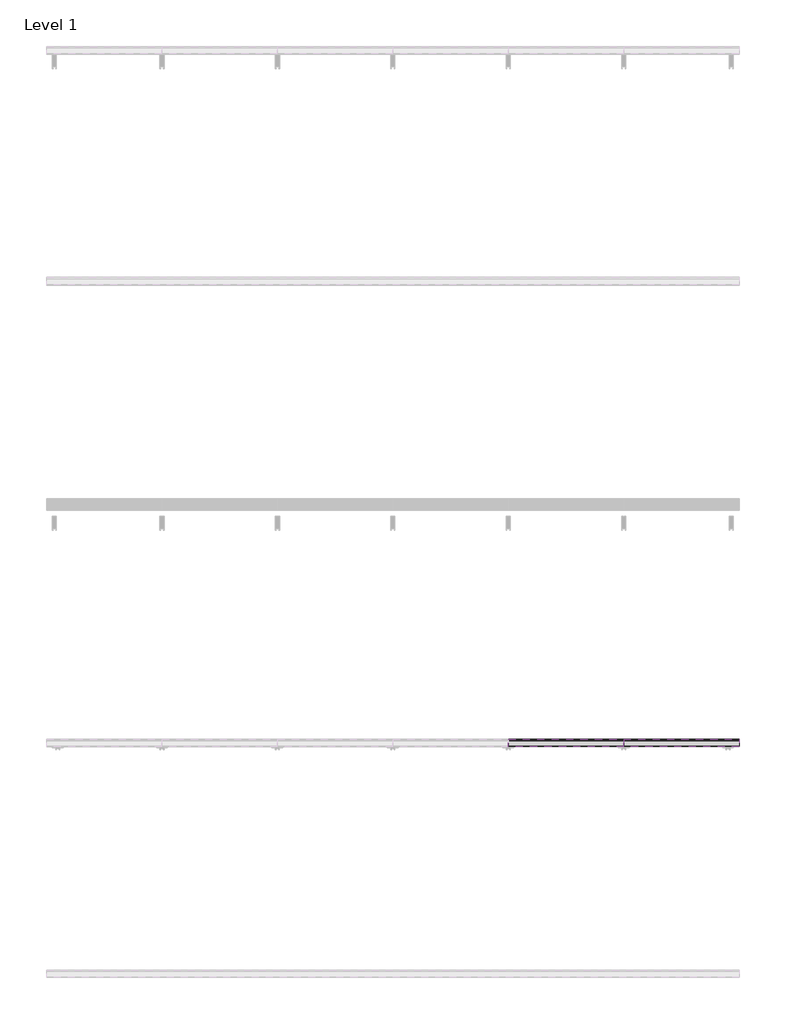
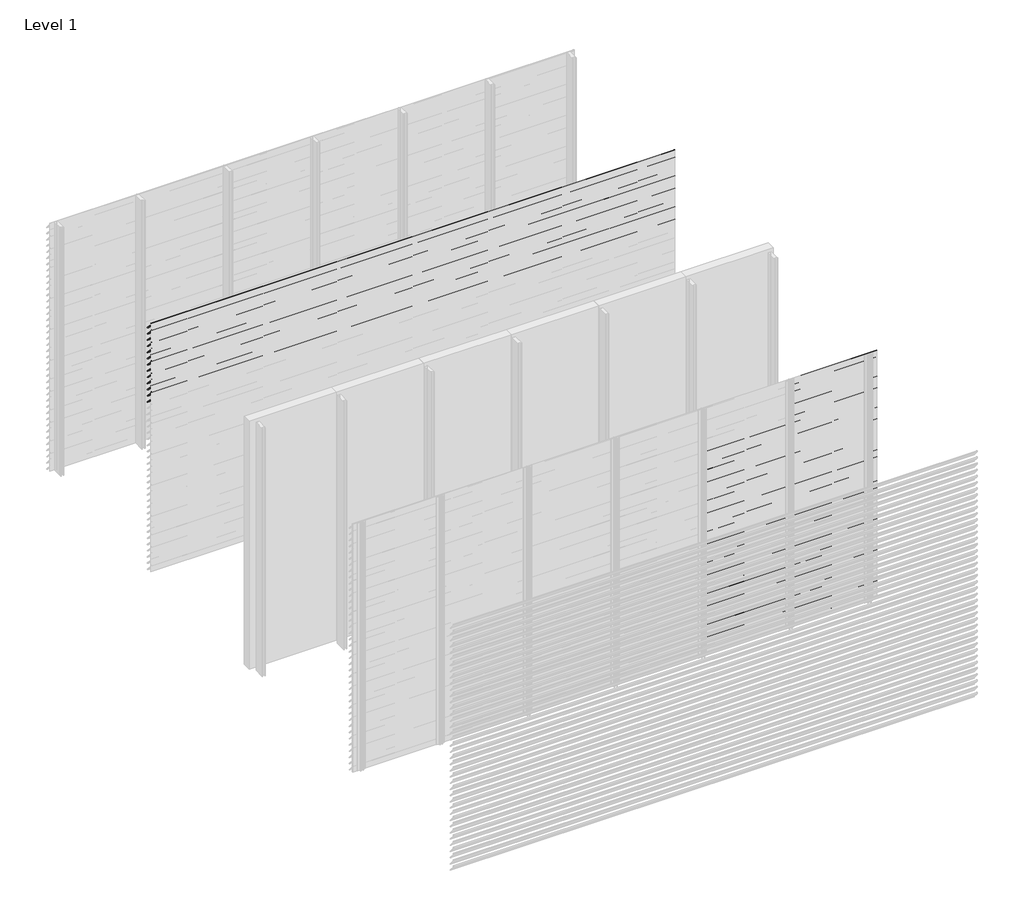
# One storey, part 6 of 35: 86 proxies.
"""IFC4 building model written with IfcOpenShell, lengths in millimetres."""

from ifc_helpers import new_model, si_unit, frame, origin, place, context, project, spatial, polyline, outline, extrude, element, save

model = new_model("IFC4")

# Units and contexts
model_context = context("Model", 3, world=origin())
ifc_project = project(units=[si_unit("LENGTHUNIT", "METRE", prefix="MILLI")], contexts=[model_context])

# Site, building, storey
site = spatial("IfcSite", under=ifc_project)
building = spatial("IfcBuilding", under=site)
storey = spatial("IfcBuildingStorey", under=building, Name="Level 1", Elevation=0.0)

# Proxies
placement = place(None, origin())
element("IfcBuildingElementProxy", 1, Name="Wall Sweeps", at=placement, inside=storey, context=model_context, shape_type="SweptSolid", body=[
    extrude(outline(polyline([(-49996.5, 3000.0), (-49996.5, 2985.5463701), (-49934.5, 2913.9330051), (-49934.5, 2910.4), (-49936.0, 2910.4), (-49936.0, 2913.3738975), (-49998.0, 2984.9872626), (-49998.0, 3000.0), (-49996.5, 3000.0)])), frame((0.0, 0.0, 0.0), z_axis=(1.0, 0.0, 0.0), x_axis=(0.0, 1.0, 0.0)), (0.0, 0.0, 1.0), 6000.0),
])
element("IfcBuildingElementProxy", 2, Name="Wall Sweeps", at=placement, inside=storey, context=model_context, shape_type="SweptSolid", body=[
    extrude(outline(polyline([(-49996.5, 2925.0), (-49996.5, 2910.5463701), (-49934.5, 2838.9330051), (-49934.5, 2835.4), (-49936.0, 2835.4), (-49936.0, 2838.3738975), (-49998.0, 2909.9872626), (-49998.0, 2925.0), (-49996.5, 2925.0)])), frame((0.0, 0.0, 0.0), z_axis=(1.0, 0.0, 0.0), x_axis=(0.0, 1.0, 0.0)), (0.0, 0.0, 1.0), 6000.0),
])
element("IfcBuildingElementProxy", 3, Name="Wall Sweeps", at=placement, inside=storey, context=model_context, shape_type="SweptSolid", body=[
    extrude(outline(polyline([(-49996.5, 2850.0), (-49996.5, 2835.5463701), (-49934.5, 2763.9330051), (-49934.5, 2760.4), (-49936.0, 2760.4), (-49936.0, 2763.3738975), (-49998.0, 2834.9872626), (-49998.0, 2850.0), (-49996.5, 2850.0)])), frame((0.0, 0.0, 0.0), z_axis=(1.0, 0.0, 0.0), x_axis=(0.0, 1.0, 0.0)), (0.0, 0.0, 1.0), 6000.0),
])
element("IfcBuildingElementProxy", 4, Name="Wall Sweeps", at=placement, inside=storey, context=model_context, shape_type="SweptSolid", body=[
    extrude(outline(polyline([(-49996.5, 2775.0), (-49996.5, 2760.5463701), (-49934.5, 2688.9330051), (-49934.5, 2685.4), (-49936.0, 2685.4), (-49936.0, 2688.3738975), (-49998.0, 2759.9872626), (-49998.0, 2775.0), (-49996.5, 2775.0)])), frame((0.0, 0.0, 0.0), z_axis=(1.0, 0.0, 0.0), x_axis=(0.0, 1.0, 0.0)), (0.0, 0.0, 1.0), 6000.0),
])
element("IfcBuildingElementProxy", 5, Name="Wall Sweeps", at=placement, inside=storey, context=model_context, shape_type="SweptSolid", body=[
    extrude(outline(polyline([(-49996.5, 2700.0), (-49996.5, 2685.5463701), (-49934.5, 2613.9330051), (-49934.5, 2610.4), (-49936.0, 2610.4), (-49936.0, 2613.3738975), (-49998.0, 2684.9872626), (-49998.0, 2700.0), (-49996.5, 2700.0)])), frame((0.0, 0.0, 0.0), z_axis=(1.0, 0.0, 0.0), x_axis=(0.0, 1.0, 0.0)), (0.0, 0.0, 1.0), 6000.0),
])
element("IfcBuildingElementProxy", 6, Name="Wall Sweeps", at=placement, inside=storey, context=model_context, shape_type="SweptSolid", body=[
    extrude(outline(polyline([(-49996.5, 2625.0), (-49996.5, 2610.5463701), (-49934.5, 2538.9330051), (-49934.5, 2535.4), (-49936.0, 2535.4), (-49936.0, 2538.3738975), (-49998.0, 2609.9872626), (-49998.0, 2625.0), (-49996.5, 2625.0)])), frame((0.0, 0.0, 0.0), z_axis=(1.0, 0.0, 0.0), x_axis=(0.0, 1.0, 0.0)), (0.0, 0.0, 1.0), 6000.0),
])
element("IfcBuildingElementProxy", 7, Name="Wall Sweeps", at=placement, inside=storey, context=model_context, shape_type="SweptSolid", body=[
    extrude(outline(polyline([(-49996.5, 2550.0), (-49996.5, 2535.5463701), (-49934.5, 2463.9330051), (-49934.5, 2460.4), (-49936.0, 2460.4), (-49936.0, 2463.3738975), (-49998.0, 2534.9872626), (-49998.0, 2550.0), (-49996.5, 2550.0)])), frame((0.0, 0.0, 0.0), z_axis=(1.0, 0.0, 0.0), x_axis=(0.0, 1.0, 0.0)), (0.0, 0.0, 1.0), 6000.0),
])
element("IfcBuildingElementProxy", 8, Name="Wall Sweeps", at=placement, inside=storey, context=model_context, shape_type="SweptSolid", body=[
    extrude(outline(polyline([(-49996.5, 2475.0), (-49996.5, 2460.5463701), (-49934.5, 2388.9330051), (-49934.5, 2385.4), (-49936.0, 2385.4), (-49936.0, 2388.3738975), (-49998.0, 2459.9872626), (-49998.0, 2475.0), (-49996.5, 2475.0)])), frame((0.0, 0.0, 0.0), z_axis=(1.0, 0.0, 0.0), x_axis=(0.0, 1.0, 0.0)), (0.0, 0.0, 1.0), 6000.0),
])
element("IfcBuildingElementProxy", 9, Name="Wall Sweeps", at=placement, inside=storey, context=model_context, shape_type="SweptSolid", body=[
    extrude(outline(polyline([(-49996.5, 2400.0), (-49996.5, 2385.5463701), (-49934.5, 2313.9330051), (-49934.5, 2310.4), (-49936.0, 2310.4), (-49936.0, 2313.3738975), (-49998.0, 2384.9872626), (-49998.0, 2400.0), (-49996.5, 2400.0)])), frame((0.0, 0.0, 0.0), z_axis=(1.0, 0.0, 0.0), x_axis=(0.0, 1.0, 0.0)), (0.0, 0.0, 1.0), 6000.0),
])
element("IfcBuildingElementProxy", 10, Name="Wall Sweeps", at=placement, inside=storey, context=model_context, shape_type="SweptSolid", body=[
    extrude(outline(polyline([(-49996.5, 2325.0), (-49996.5, 2310.5463701), (-49934.5, 2238.9330051), (-49934.5, 2235.4), (-49936.0, 2235.4), (-49936.0, 2238.3738975), (-49998.0, 2309.9872626), (-49998.0, 2325.0), (-49996.5, 2325.0)])), frame((0.0, 0.0, 0.0), z_axis=(1.0, 0.0, 0.0), x_axis=(0.0, 1.0, 0.0)), (0.0, 0.0, 1.0), 6000.0),
])
element("IfcBuildingElementProxy", 11, Name="Wall Sweeps", at=placement, inside=storey, context=model_context, shape_type="SweptSolid", body=[
    extrude(outline(polyline([(-49996.5, 2250.0), (-49996.5, 2235.5463701), (-49934.5, 2163.9330051), (-49934.5, 2160.4), (-49936.0, 2160.4), (-49936.0, 2163.3738975), (-49998.0, 2234.9872626), (-49998.0, 2250.0), (-49996.5, 2250.0)])), frame((0.0, 0.0, 0.0), z_axis=(1.0, 0.0, 0.0), x_axis=(0.0, 1.0, 0.0)), (0.0, 0.0, 1.0), 6000.0),
])
element("IfcBuildingElementProxy", 12, Name="Wall Sweeps", at=placement, inside=storey, context=model_context, shape_type="SweptSolid", body=[
    extrude(outline(polyline([(-49996.5, 2175.0), (-49996.5, 2160.5463701), (-49934.5, 2088.9330051), (-49934.5, 2085.4), (-49936.0, 2085.4), (-49936.0, 2088.3738975), (-49998.0, 2159.9872626), (-49998.0, 2175.0), (-49996.5, 2175.0)])), frame((0.0, 0.0, 0.0), z_axis=(1.0, 0.0, 0.0), x_axis=(0.0, 1.0, 0.0)), (0.0, 0.0, 1.0), 6000.0),
])
element("IfcBuildingElementProxy", 13, Name="Wall Sweeps", at=placement, inside=storey, context=model_context, shape_type="SweptSolid", body=[
    extrude(outline(polyline([(-49996.5, 2100.0), (-49996.5, 2085.5463701), (-49934.5, 2013.9330051), (-49934.5, 2010.4), (-49936.0, 2010.4), (-49936.0, 2013.3738975), (-49998.0, 2084.9872626), (-49998.0, 2100.0), (-49996.5, 2100.0)])), frame((0.0, 0.0, 0.0), z_axis=(1.0, 0.0, 0.0), x_axis=(0.0, 1.0, 0.0)), (0.0, 0.0, 1.0), 6000.0),
])
element("IfcBuildingElementProxy", 14, Name="Wall Sweeps", at=placement, inside=storey, context=model_context, shape_type="SweptSolid", body=[
    extrude(outline(polyline([(-53996.5, 2475.0), (-53996.5, 2460.5463701), (-53934.5, 2388.9330051), (-53934.5, 2385.4), (-53936.0, 2385.4), (-53936.0, 2388.3738975), (-53998.0, 2459.9872626), (-53998.0, 2475.0), (-53996.5, 2475.0)])), frame((4000.0, 0.0, 0.0), z_axis=(1.0, 0.0, 0.0), x_axis=(0.0, 1.0, 0.0)), (0.0, 0.0, 1.0), 1000.0),
])
element("IfcBuildingElementProxy", 15, Name="Wall Sweeps", at=placement, inside=storey, context=model_context, shape_type="SweptSolid", body=[
    extrude(outline(polyline([(-53996.5, 2400.0), (-53996.5, 2385.5463701), (-53934.5, 2313.9330051), (-53934.5, 2310.4), (-53936.0, 2310.4), (-53936.0, 2313.3738975), (-53998.0, 2384.9872626), (-53998.0, 2400.0), (-53996.5, 2400.0)])), frame((4000.0, 0.0, 0.0), z_axis=(1.0, 0.0, 0.0), x_axis=(0.0, 1.0, 0.0)), (0.0, 0.0, 1.0), 1000.0),
])
element("IfcBuildingElementProxy", 16, Name="Wall Sweeps", at=placement, inside=storey, context=model_context, shape_type="SweptSolid", body=[
    extrude(outline(polyline([(-53996.5, 2325.0), (-53996.5, 2310.5463701), (-53934.5, 2238.9330051), (-53934.5, 2235.4), (-53936.0, 2235.4), (-53936.0, 2238.3738975), (-53998.0, 2309.9872626), (-53998.0, 2325.0), (-53996.5, 2325.0)])), frame((4000.0, 0.0, 0.0), z_axis=(1.0, 0.0, 0.0), x_axis=(0.0, 1.0, 0.0)), (0.0, 0.0, 1.0), 1000.0),
])
element("IfcBuildingElementProxy", 17, Name="Wall Sweeps", at=placement, inside=storey, context=model_context, shape_type="SweptSolid", body=[
    extrude(outline(polyline([(-53996.5, 2250.0), (-53996.5, 2235.5463701), (-53934.5, 2163.9330051), (-53934.5, 2160.4), (-53936.0, 2160.4), (-53936.0, 2163.3738975), (-53998.0, 2234.9872626), (-53998.0, 2250.0), (-53996.5, 2250.0)])), frame((4000.0, 0.0, 0.0), z_axis=(1.0, 0.0, 0.0), x_axis=(0.0, 1.0, 0.0)), (0.0, 0.0, 1.0), 1000.0),
])
element("IfcBuildingElementProxy", 18, Name="Wall Sweeps", at=placement, inside=storey, context=model_context, shape_type="SweptSolid", body=[
    extrude(outline(polyline([(-53996.5, 2175.0), (-53996.5, 2160.5463701), (-53934.5, 2088.9330051), (-53934.5, 2085.4), (-53936.0, 2085.4), (-53936.0, 2088.3738975), (-53998.0, 2159.9872626), (-53998.0, 2175.0), (-53996.5, 2175.0)])), frame((4000.0, 0.0, 0.0), z_axis=(1.0, 0.0, 0.0), x_axis=(0.0, 1.0, 0.0)), (0.0, 0.0, 1.0), 1000.0),
])
element("IfcBuildingElementProxy", 19, Name="Wall Sweeps", at=placement, inside=storey, context=model_context, shape_type="SweptSolid", body=[
    extrude(outline(polyline([(-53996.5, 2100.0), (-53996.5, 2085.5463701), (-53934.5, 2013.9330051), (-53934.5, 2010.4), (-53936.0, 2010.4), (-53936.0, 2013.3738975), (-53998.0, 2084.9872626), (-53998.0, 2100.0), (-53996.5, 2100.0)])), frame((4000.0, 0.0, 0.0), z_axis=(1.0, 0.0, 0.0), x_axis=(0.0, 1.0, 0.0)), (0.0, 0.0, 1.0), 1000.0),
])
element("IfcBuildingElementProxy", 20, Name="Wall Sweeps", at=placement, inside=storey, context=model_context, shape_type="SweptSolid", body=[
    extrude(outline(polyline([(-53996.5, 2025.0), (-53996.5, 2010.5463701), (-53934.5, 1938.9330051), (-53934.5, 1935.4), (-53936.0, 1935.4), (-53936.0, 1938.3738975), (-53998.0, 2009.9872626), (-53998.0, 2025.0), (-53996.5, 2025.0)])), frame((4000.0, 0.0, 0.0), z_axis=(1.0, 0.0, 0.0), x_axis=(0.0, 1.0, 0.0)), (0.0, 0.0, 1.0), 1000.0),
])
element("IfcBuildingElementProxy", 21, Name="Wall Sweeps", at=placement, inside=storey, context=model_context, shape_type="SweptSolid", body=[
    extrude(outline(polyline([(-53996.5, 1950.0), (-53996.5, 1935.5463701), (-53934.5, 1863.9330051), (-53934.5, 1860.4), (-53936.0, 1860.4), (-53936.0, 1863.3738975), (-53998.0, 1934.9872626), (-53998.0, 1950.0), (-53996.5, 1950.0)])), frame((4000.0, 0.0, 0.0), z_axis=(1.0, 0.0, 0.0), x_axis=(0.0, 1.0, 0.0)), (0.0, 0.0, 1.0), 1000.0),
])
element("IfcBuildingElementProxy", 22, Name="Wall Sweeps", at=placement, inside=storey, context=model_context, shape_type="SweptSolid", body=[
    extrude(outline(polyline([(-53996.5, 1875.0), (-53996.5, 1860.5463701), (-53934.5, 1788.9330051), (-53934.5, 1785.4), (-53936.0, 1785.4), (-53936.0, 1788.3738975), (-53998.0, 1859.9872626), (-53998.0, 1875.0), (-53996.5, 1875.0)])), frame((4000.0, 0.0, 0.0), z_axis=(1.0, 0.0, 0.0), x_axis=(0.0, 1.0, 0.0)), (0.0, 0.0, 1.0), 1000.0),
])
element("IfcBuildingElementProxy", 23, Name="Wall Sweeps", at=placement, inside=storey, context=model_context, shape_type="SweptSolid", body=[
    extrude(outline(polyline([(-53996.5, 1800.0), (-53996.5, 1785.5463701), (-53934.5, 1713.9330051), (-53934.5, 1710.4), (-53936.0, 1710.4), (-53936.0, 1713.3738975), (-53998.0, 1784.9872626), (-53998.0, 1800.0), (-53996.5, 1800.0)])), frame((4000.0, 0.0, 0.0), z_axis=(1.0, 0.0, 0.0), x_axis=(0.0, 1.0, 0.0)), (0.0, 0.0, 1.0), 1000.0),
])
element("IfcBuildingElementProxy", 24, Name="Wall Sweeps", at=placement, inside=storey, context=model_context, shape_type="SweptSolid", body=[
    extrude(outline(polyline([(-53996.5, 1725.0), (-53996.5, 1710.5463701), (-53934.5, 1638.9330051), (-53934.5, 1635.4), (-53936.0, 1635.4), (-53936.0, 1638.3738975), (-53998.0, 1709.9872626), (-53998.0, 1725.0), (-53996.5, 1725.0)])), frame((4000.0, 0.0, 0.0), z_axis=(1.0, 0.0, 0.0), x_axis=(0.0, 1.0, 0.0)), (0.0, 0.0, 1.0), 1000.0),
])
element("IfcBuildingElementProxy", 25, Name="Wall Sweeps", at=placement, inside=storey, context=model_context, shape_type="SweptSolid", body=[
    extrude(outline(polyline([(-53996.5, 1650.0), (-53996.5, 1635.5463701), (-53934.5, 1563.9330051), (-53934.5, 1560.4), (-53936.0, 1560.4), (-53936.0, 1563.3738975), (-53998.0, 1634.9872626), (-53998.0, 1650.0), (-53996.5, 1650.0)])), frame((4000.0, 0.0, 0.0), z_axis=(1.0, 0.0, 0.0), x_axis=(0.0, 1.0, 0.0)), (0.0, 0.0, 1.0), 1000.0),
])
element("IfcBuildingElementProxy", 26, Name="Wall Sweeps", at=placement, inside=storey, context=model_context, shape_type="SweptSolid", body=[
    extrude(outline(polyline([(-53996.5, 1575.0), (-53996.5, 1560.5463701), (-53934.5, 1488.9330051), (-53934.5, 1485.4), (-53936.0, 1485.4), (-53936.0, 1488.3738975), (-53998.0, 1559.9872626), (-53998.0, 1575.0), (-53996.5, 1575.0)])), frame((4000.0, 0.0, 0.0), z_axis=(1.0, 0.0, 0.0), x_axis=(0.0, 1.0, 0.0)), (0.0, 0.0, 1.0), 1000.0),
])
element("IfcBuildingElementProxy", 27, Name="Wall Sweeps", at=placement, inside=storey, context=model_context, shape_type="SweptSolid", body=[
    extrude(outline(polyline([(-53996.5, 1500.0), (-53996.5, 1485.5463701), (-53934.5, 1413.9330051), (-53934.5, 1410.4), (-53936.0, 1410.4), (-53936.0, 1413.3738975), (-53998.0, 1484.9872626), (-53998.0, 1500.0), (-53996.5, 1500.0)])), frame((4000.0, 0.0, 0.0), z_axis=(1.0, 0.0, 0.0), x_axis=(0.0, 1.0, 0.0)), (0.0, 0.0, 1.0), 1000.0),
])
element("IfcBuildingElementProxy", 28, Name="Wall Sweeps", at=placement, inside=storey, context=model_context, shape_type="SweptSolid", body=[
    extrude(outline(polyline([(-53996.5, 1425.0), (-53996.5, 1410.5463701), (-53934.5, 1338.9330051), (-53934.5, 1335.4), (-53936.0, 1335.4), (-53936.0, 1338.3738975), (-53998.0, 1409.9872626), (-53998.0, 1425.0), (-53996.5, 1425.0)])), frame((4000.0, 0.0, 0.0), z_axis=(1.0, 0.0, 0.0), x_axis=(0.0, 1.0, 0.0)), (0.0, 0.0, 1.0), 1000.0),
])
element("IfcBuildingElementProxy", 29, Name="Wall Sweeps", at=placement, inside=storey, context=model_context, shape_type="SweptSolid", body=[
    extrude(outline(polyline([(-53996.5, 1350.0), (-53996.5, 1335.5463701), (-53934.5, 1263.9330051), (-53934.5, 1260.4), (-53936.0, 1260.4), (-53936.0, 1263.3738975), (-53998.0, 1334.9872626), (-53998.0, 1350.0), (-53996.5, 1350.0)])), frame((4000.0, 0.0, 0.0), z_axis=(1.0, 0.0, 0.0), x_axis=(0.0, 1.0, 0.0)), (0.0, 0.0, 1.0), 1000.0),
])
element("IfcBuildingElementProxy", 30, Name="Wall Sweeps", at=placement, inside=storey, context=model_context, shape_type="SweptSolid", body=[
    extrude(outline(polyline([(-53996.5, 1275.0), (-53996.5, 1260.5463701), (-53934.5, 1188.9330051), (-53934.5, 1185.4), (-53936.0, 1185.4), (-53936.0, 1188.3738975), (-53998.0, 1259.9872626), (-53998.0, 1275.0), (-53996.5, 1275.0)])), frame((4000.0, 0.0, 0.0), z_axis=(1.0, 0.0, 0.0), x_axis=(0.0, 1.0, 0.0)), (0.0, 0.0, 1.0), 1000.0),
])
element("IfcBuildingElementProxy", 31, Name="Wall Sweeps", at=placement, inside=storey, context=model_context, shape_type="SweptSolid", body=[
    extrude(outline(polyline([(-53996.5, 1200.0), (-53996.5, 1185.5463701), (-53934.5, 1113.9330051), (-53934.5, 1110.4), (-53936.0, 1110.4), (-53936.0, 1113.3738975), (-53998.0, 1184.9872626), (-53998.0, 1200.0), (-53996.5, 1200.0)])), frame((4000.0, 0.0, 0.0), z_axis=(1.0, 0.0, 0.0), x_axis=(0.0, 1.0, 0.0)), (0.0, 0.0, 1.0), 1000.0),
])
element("IfcBuildingElementProxy", 32, Name="Wall Sweeps", at=placement, inside=storey, context=model_context, shape_type="SweptSolid", body=[
    extrude(outline(polyline([(-53996.5, 1125.0), (-53996.5, 1110.5463701), (-53934.5, 1038.9330051), (-53934.5, 1035.4), (-53936.0, 1035.4), (-53936.0, 1038.3738975), (-53998.0, 1109.9872626), (-53998.0, 1125.0), (-53996.5, 1125.0)])), frame((4000.0, 0.0, 0.0), z_axis=(1.0, 0.0, 0.0), x_axis=(0.0, 1.0, 0.0)), (0.0, 0.0, 1.0), 1000.0),
])
element("IfcBuildingElementProxy", 33, Name="Wall Sweeps", at=placement, inside=storey, context=model_context, shape_type="SweptSolid", body=[
    extrude(outline(polyline([(-53996.5, 1050.0), (-53996.5, 1035.5463701), (-53934.5, 963.9330051), (-53934.5, 960.4), (-53936.0, 960.4), (-53936.0, 963.3738975), (-53998.0, 1034.9872626), (-53998.0, 1050.0), (-53996.5, 1050.0)])), frame((4000.0, 0.0, 0.0), z_axis=(1.0, 0.0, 0.0), x_axis=(0.0, 1.0, 0.0)), (0.0, 0.0, 1.0), 1000.0),
])
element("IfcBuildingElementProxy", 34, Name="Wall Sweeps", at=placement, inside=storey, context=model_context, shape_type="SweptSolid", body=[
    extrude(outline(polyline([(-53996.5, 975.0), (-53996.5, 960.5463701), (-53934.5, 888.9330051), (-53934.5, 885.4), (-53936.0, 885.4), (-53936.0, 888.3738975), (-53998.0, 959.9872626), (-53998.0, 975.0), (-53996.5, 975.0)])), frame((4000.0, 0.0, 0.0), z_axis=(1.0, 0.0, 0.0), x_axis=(0.0, 1.0, 0.0)), (0.0, 0.0, 1.0), 1000.0),
])
element("IfcBuildingElementProxy", 35, Name="Wall Sweeps", at=placement, inside=storey, context=model_context, shape_type="SweptSolid", body=[
    extrude(outline(polyline([(-53996.5, 900.0), (-53996.5, 885.5463701), (-53934.5, 813.9330051), (-53934.5, 810.4), (-53936.0, 810.4), (-53936.0, 813.3738975), (-53998.0, 884.9872626), (-53998.0, 900.0), (-53996.5, 900.0)])), frame((4000.0, 0.0, 0.0), z_axis=(1.0, 0.0, 0.0), x_axis=(0.0, 1.0, 0.0)), (0.0, 0.0, 1.0), 1000.0),
])
element("IfcBuildingElementProxy", 36, Name="Wall Sweeps", at=placement, inside=storey, context=model_context, shape_type="SweptSolid", body=[
    extrude(outline(polyline([(-53996.5, 825.0), (-53996.5, 810.5463701), (-53934.5, 738.9330051), (-53934.5, 735.4), (-53936.0, 735.4), (-53936.0, 738.3738975), (-53998.0, 809.9872626), (-53998.0, 825.0), (-53996.5, 825.0)])), frame((4000.0, 0.0, 0.0), z_axis=(1.0, 0.0, 0.0), x_axis=(0.0, 1.0, 0.0)), (0.0, 0.0, 1.0), 1000.0),
])
element("IfcBuildingElementProxy", 37, Name="Wall Sweeps", at=placement, inside=storey, context=model_context, shape_type="SweptSolid", body=[
    extrude(outline(polyline([(-53996.5, 750.0), (-53996.5, 735.5463701), (-53934.5, 663.9330051), (-53934.5, 660.4), (-53936.0, 660.4), (-53936.0, 663.3738975), (-53998.0, 734.9872626), (-53998.0, 750.0), (-53996.5, 750.0)])), frame((4000.0, 0.0, 0.0), z_axis=(1.0, 0.0, 0.0), x_axis=(0.0, 1.0, 0.0)), (0.0, 0.0, 1.0), 1000.0),
])
element("IfcBuildingElementProxy", 38, Name="Wall Sweeps", at=placement, inside=storey, context=model_context, shape_type="SweptSolid", body=[
    extrude(outline(polyline([(-53996.5, 675.0), (-53996.5, 660.5463701), (-53934.5, 588.9330051), (-53934.5, 585.4), (-53936.0, 585.4), (-53936.0, 588.3738975), (-53998.0, 659.9872626), (-53998.0, 675.0), (-53996.5, 675.0)])), frame((4000.0, 0.0, 0.0), z_axis=(1.0, 0.0, 0.0), x_axis=(0.0, 1.0, 0.0)), (0.0, 0.0, 1.0), 1000.0),
])
element("IfcBuildingElementProxy", 39, Name="Wall Sweeps", at=placement, inside=storey, context=model_context, shape_type="SweptSolid", body=[
    extrude(outline(polyline([(-53996.5, 600.0), (-53996.5, 585.5463701), (-53934.5, 513.9330051), (-53934.5, 510.4), (-53936.0, 510.4), (-53936.0, 513.3738975), (-53998.0, 584.9872626), (-53998.0, 600.0), (-53996.5, 600.0)])), frame((4000.0, 0.0, 0.0), z_axis=(1.0, 0.0, 0.0), x_axis=(0.0, 1.0, 0.0)), (0.0, 0.0, 1.0), 1000.0),
])
element("IfcBuildingElementProxy", 40, Name="Wall Sweeps", at=placement, inside=storey, context=model_context, shape_type="SweptSolid", body=[
    extrude(outline(polyline([(-53996.5, 525.0), (-53996.5, 510.5463701), (-53934.5, 438.9330051), (-53934.5, 435.4), (-53936.0, 435.4), (-53936.0, 438.3738975), (-53998.0, 509.9872626), (-53998.0, 525.0), (-53996.5, 525.0)])), frame((4000.0, 0.0, 0.0), z_axis=(1.0, 0.0, 0.0), x_axis=(0.0, 1.0, 0.0)), (0.0, 0.0, 1.0), 1000.0),
])
element("IfcBuildingElementProxy", 41, Name="Wall Sweeps", at=placement, inside=storey, context=model_context, shape_type="SweptSolid", body=[
    extrude(outline(polyline([(-53996.5, 450.0), (-53996.5, 435.5463701), (-53934.5, 363.9330051), (-53934.5, 360.4), (-53936.0, 360.4), (-53936.0, 363.3738975), (-53998.0, 434.9872626), (-53998.0, 450.0), (-53996.5, 450.0)])), frame((4000.0, 0.0, 0.0), z_axis=(1.0, 0.0, 0.0), x_axis=(0.0, 1.0, 0.0)), (0.0, 0.0, 1.0), 1000.0),
])
element("IfcBuildingElementProxy", 42, Name="Wall Sweeps", at=placement, inside=storey, context=model_context, shape_type="SweptSolid", body=[
    extrude(outline(polyline([(-53996.5, 375.0), (-53996.5, 360.5463701), (-53934.5, 288.9330051), (-53934.5, 285.4), (-53936.0, 285.4), (-53936.0, 288.3738975), (-53998.0, 359.9872626), (-53998.0, 375.0), (-53996.5, 375.0)])), frame((4000.0, 0.0, 0.0), z_axis=(1.0, 0.0, 0.0), x_axis=(0.0, 1.0, 0.0)), (0.0, 0.0, 1.0), 1000.0),
])
element("IfcBuildingElementProxy", 43, Name="Wall Sweeps", at=placement, inside=storey, context=model_context, shape_type="SweptSolid", body=[
    extrude(outline(polyline([(-53996.5, 300.0), (-53996.5, 285.5463701), (-53934.5, 213.9330051), (-53934.5, 210.4), (-53936.0, 210.4), (-53936.0, 213.3738975), (-53998.0, 284.9872626), (-53998.0, 300.0), (-53996.5, 300.0)])), frame((4000.0, 0.0, 0.0), z_axis=(1.0, 0.0, 0.0), x_axis=(0.0, 1.0, 0.0)), (0.0, 0.0, 1.0), 1000.0),
])
element("IfcBuildingElementProxy", 44, Name="Wall Sweeps", at=placement, inside=storey, context=model_context, shape_type="SweptSolid", body=[
    extrude(outline(polyline([(-53996.5, 225.0), (-53996.5, 210.5463701), (-53934.5, 138.9330051), (-53934.5, 135.4), (-53936.0, 135.4), (-53936.0, 138.3738975), (-53998.0, 209.9872626), (-53998.0, 225.0), (-53996.5, 225.0)])), frame((4000.0, 0.0, 0.0), z_axis=(1.0, 0.0, 0.0), x_axis=(0.0, 1.0, 0.0)), (0.0, 0.0, 1.0), 1000.0),
])
element("IfcBuildingElementProxy", 45, Name="Wall Sweeps", at=placement, inside=storey, context=model_context, shape_type="SweptSolid", body=[
    extrude(outline(polyline([(-53996.5, 150.0), (-53996.5, 135.5463701), (-53934.5, 63.9330051), (-53934.5, 60.4), (-53936.0, 60.4), (-53936.0, 63.3738975), (-53998.0, 134.9872626), (-53998.0, 150.0), (-53996.5, 150.0)])), frame((4000.0, 0.0, 0.0), z_axis=(1.0, 0.0, 0.0), x_axis=(0.0, 1.0, 0.0)), (0.0, 0.0, 1.0), 1000.0),
])
element("IfcBuildingElementProxy", 46, Name="Wall Sweeps", at=placement, inside=storey, context=model_context, shape_type="SweptSolid", body=[
    extrude(outline(polyline([(-53996.5, 75.0), (-53996.5, 60.5463701), (-53934.5, -11.0669949), (-53934.5, -14.6), (-53936.0, -14.6), (-53936.0, -11.6261025), (-53998.0, 59.9872626), (-53998.0, 75.0), (-53996.5, 75.0)])), frame((4000.0, 0.0, 0.0), z_axis=(1.0, 0.0, 0.0), x_axis=(0.0, 1.0, 0.0)), (0.0, 0.0, 1.0), 1000.0),
])
element("IfcBuildingElementProxy", 47, Name="Wall Sweeps", at=placement, inside=storey, context=model_context, shape_type="SweptSolid", body=[
    extrude(outline(polyline([(-53996.5, 3000.0), (-53996.5, 2985.5463701), (-53934.5, 2913.9330051), (-53934.5, 2910.4), (-53936.0, 2910.4), (-53936.0, 2913.3738975), (-53998.0, 2984.9872626), (-53998.0, 3000.0), (-53996.5, 3000.0)])), frame((5000.0, 0.0, 0.0), z_axis=(1.0, 0.0, 0.0), x_axis=(0.0, 1.0, 0.0)), (0.0, 0.0, 1.0), 1000.0),
])
element("IfcBuildingElementProxy", 48, Name="Wall Sweeps", at=placement, inside=storey, context=model_context, shape_type="SweptSolid", body=[
    extrude(outline(polyline([(-53996.5, 2925.0), (-53996.5, 2910.5463701), (-53934.5, 2838.9330051), (-53934.5, 2835.4), (-53936.0, 2835.4), (-53936.0, 2838.3738975), (-53998.0, 2909.9872626), (-53998.0, 2925.0), (-53996.5, 2925.0)])), frame((5000.0, 0.0, 0.0), z_axis=(1.0, 0.0, 0.0), x_axis=(0.0, 1.0, 0.0)), (0.0, 0.0, 1.0), 1000.0),
])
element("IfcBuildingElementProxy", 49, Name="Wall Sweeps", at=placement, inside=storey, context=model_context, shape_type="SweptSolid", body=[
    extrude(outline(polyline([(-53996.5, 2850.0), (-53996.5, 2835.5463701), (-53934.5, 2763.9330051), (-53934.5, 2760.4), (-53936.0, 2760.4), (-53936.0, 2763.3738975), (-53998.0, 2834.9872626), (-53998.0, 2850.0), (-53996.5, 2850.0)])), frame((5000.0, 0.0, 0.0), z_axis=(1.0, 0.0, 0.0), x_axis=(0.0, 1.0, 0.0)), (0.0, 0.0, 1.0), 1000.0),
])
element("IfcBuildingElementProxy", 50, Name="Wall Sweeps", at=placement, inside=storey, context=model_context, shape_type="SweptSolid", body=[
    extrude(outline(polyline([(-53996.5, 2775.0), (-53996.5, 2760.5463701), (-53934.5, 2688.9330051), (-53934.5, 2685.4), (-53936.0, 2685.4), (-53936.0, 2688.3738975), (-53998.0, 2759.9872626), (-53998.0, 2775.0), (-53996.5, 2775.0)])), frame((5000.0, 0.0, 0.0), z_axis=(1.0, 0.0, 0.0), x_axis=(0.0, 1.0, 0.0)), (0.0, 0.0, 1.0), 1000.0),
])
element("IfcBuildingElementProxy", 51, Name="Wall Sweeps", at=placement, inside=storey, context=model_context, shape_type="SweptSolid", body=[
    extrude(outline(polyline([(-53996.5, 2700.0), (-53996.5, 2685.5463701), (-53934.5, 2613.9330051), (-53934.5, 2610.4), (-53936.0, 2610.4), (-53936.0, 2613.3738975), (-53998.0, 2684.9872626), (-53998.0, 2700.0), (-53996.5, 2700.0)])), frame((5000.0, 0.0, 0.0), z_axis=(1.0, 0.0, 0.0), x_axis=(0.0, 1.0, 0.0)), (0.0, 0.0, 1.0), 1000.0),
])
element("IfcBuildingElementProxy", 52, Name="Wall Sweeps", at=placement, inside=storey, context=model_context, shape_type="SweptSolid", body=[
    extrude(outline(polyline([(-53996.5, 2625.0), (-53996.5, 2610.5463701), (-53934.5, 2538.9330051), (-53934.5, 2535.4), (-53936.0, 2535.4), (-53936.0, 2538.3738975), (-53998.0, 2609.9872626), (-53998.0, 2625.0), (-53996.5, 2625.0)])), frame((5000.0, 0.0, 0.0), z_axis=(1.0, 0.0, 0.0), x_axis=(0.0, 1.0, 0.0)), (0.0, 0.0, 1.0), 1000.0),
])
element("IfcBuildingElementProxy", 53, Name="Wall Sweeps", at=placement, inside=storey, context=model_context, shape_type="SweptSolid", body=[
    extrude(outline(polyline([(-53996.5, 2550.0), (-53996.5, 2535.5463701), (-53934.5, 2463.9330051), (-53934.5, 2460.4), (-53936.0, 2460.4), (-53936.0, 2463.3738975), (-53998.0, 2534.9872626), (-53998.0, 2550.0), (-53996.5, 2550.0)])), frame((5000.0, 0.0, 0.0), z_axis=(1.0, 0.0, 0.0), x_axis=(0.0, 1.0, 0.0)), (0.0, 0.0, 1.0), 1000.0),
])
element("IfcBuildingElementProxy", 54, Name="Wall Sweeps", at=placement, inside=storey, context=model_context, shape_type="SweptSolid", body=[
    extrude(outline(polyline([(-53996.5, 2475.0), (-53996.5, 2460.5463701), (-53934.5, 2388.9330051), (-53934.5, 2385.4), (-53936.0, 2385.4), (-53936.0, 2388.3738975), (-53998.0, 2459.9872626), (-53998.0, 2475.0), (-53996.5, 2475.0)])), frame((5000.0, 0.0, 0.0), z_axis=(1.0, 0.0, 0.0), x_axis=(0.0, 1.0, 0.0)), (0.0, 0.0, 1.0), 1000.0),
])
element("IfcBuildingElementProxy", 55, Name="Wall Sweeps", at=placement, inside=storey, context=model_context, shape_type="SweptSolid", body=[
    extrude(outline(polyline([(-53996.5, 2400.0), (-53996.5, 2385.5463701), (-53934.5, 2313.9330051), (-53934.5, 2310.4), (-53936.0, 2310.4), (-53936.0, 2313.3738975), (-53998.0, 2384.9872626), (-53998.0, 2400.0), (-53996.5, 2400.0)])), frame((5000.0, 0.0, 0.0), z_axis=(1.0, 0.0, 0.0), x_axis=(0.0, 1.0, 0.0)), (0.0, 0.0, 1.0), 1000.0),
])
element("IfcBuildingElementProxy", 56, Name="Wall Sweeps", at=placement, inside=storey, context=model_context, shape_type="SweptSolid", body=[
    extrude(outline(polyline([(-53996.5, 2325.0), (-53996.5, 2310.5463701), (-53934.5, 2238.9330051), (-53934.5, 2235.4), (-53936.0, 2235.4), (-53936.0, 2238.3738975), (-53998.0, 2309.9872626), (-53998.0, 2325.0), (-53996.5, 2325.0)])), frame((5000.0, 0.0, 0.0), z_axis=(1.0, 0.0, 0.0), x_axis=(0.0, 1.0, 0.0)), (0.0, 0.0, 1.0), 1000.0),
])
element("IfcBuildingElementProxy", 57, Name="Wall Sweeps", at=placement, inside=storey, context=model_context, shape_type="SweptSolid", body=[
    extrude(outline(polyline([(-53996.5, 2250.0), (-53996.5, 2235.5463701), (-53934.5, 2163.9330051), (-53934.5, 2160.4), (-53936.0, 2160.4), (-53936.0, 2163.3738975), (-53998.0, 2234.9872626), (-53998.0, 2250.0), (-53996.5, 2250.0)])), frame((5000.0, 0.0, 0.0), z_axis=(1.0, 0.0, 0.0), x_axis=(0.0, 1.0, 0.0)), (0.0, 0.0, 1.0), 1000.0),
])
element("IfcBuildingElementProxy", 58, Name="Wall Sweeps", at=placement, inside=storey, context=model_context, shape_type="SweptSolid", body=[
    extrude(outline(polyline([(-53996.5, 2175.0), (-53996.5, 2160.5463701), (-53934.5, 2088.9330051), (-53934.5, 2085.4), (-53936.0, 2085.4), (-53936.0, 2088.3738975), (-53998.0, 2159.9872626), (-53998.0, 2175.0), (-53996.5, 2175.0)])), frame((5000.0, 0.0, 0.0), z_axis=(1.0, 0.0, 0.0), x_axis=(0.0, 1.0, 0.0)), (0.0, 0.0, 1.0), 1000.0),
])
element("IfcBuildingElementProxy", 59, Name="Wall Sweeps", at=placement, inside=storey, context=model_context, shape_type="SweptSolid", body=[
    extrude(outline(polyline([(-53996.5, 2100.0), (-53996.5, 2085.5463701), (-53934.5, 2013.9330051), (-53934.5, 2010.4), (-53936.0, 2010.4), (-53936.0, 2013.3738975), (-53998.0, 2084.9872626), (-53998.0, 2100.0), (-53996.5, 2100.0)])), frame((5000.0, 0.0, 0.0), z_axis=(1.0, 0.0, 0.0), x_axis=(0.0, 1.0, 0.0)), (0.0, 0.0, 1.0), 1000.0),
])
element("IfcBuildingElementProxy", 60, Name="Wall Sweeps", at=placement, inside=storey, context=model_context, shape_type="SweptSolid", body=[
    extrude(outline(polyline([(-53996.5, 2025.0), (-53996.5, 2010.5463701), (-53934.5, 1938.9330051), (-53934.5, 1935.4), (-53936.0, 1935.4), (-53936.0, 1938.3738975), (-53998.0, 2009.9872626), (-53998.0, 2025.0), (-53996.5, 2025.0)])), frame((5000.0, 0.0, 0.0), z_axis=(1.0, 0.0, 0.0), x_axis=(0.0, 1.0, 0.0)), (0.0, 0.0, 1.0), 1000.0),
])
element("IfcBuildingElementProxy", 61, Name="Wall Sweeps", at=placement, inside=storey, context=model_context, shape_type="SweptSolid", body=[
    extrude(outline(polyline([(-53996.5, 1950.0), (-53996.5, 1935.5463701), (-53934.5, 1863.9330051), (-53934.5, 1860.4), (-53936.0, 1860.4), (-53936.0, 1863.3738975), (-53998.0, 1934.9872626), (-53998.0, 1950.0), (-53996.5, 1950.0)])), frame((5000.0, 0.0, 0.0), z_axis=(1.0, 0.0, 0.0), x_axis=(0.0, 1.0, 0.0)), (0.0, 0.0, 1.0), 1000.0),
])
element("IfcBuildingElementProxy", 62, Name="Wall Sweeps", at=placement, inside=storey, context=model_context, shape_type="SweptSolid", body=[
    extrude(outline(polyline([(-53996.5, 1875.0), (-53996.5, 1860.5463701), (-53934.5, 1788.9330051), (-53934.5, 1785.4), (-53936.0, 1785.4), (-53936.0, 1788.3738975), (-53998.0, 1859.9872626), (-53998.0, 1875.0), (-53996.5, 1875.0)])), frame((5000.0, 0.0, 0.0), z_axis=(1.0, 0.0, 0.0), x_axis=(0.0, 1.0, 0.0)), (0.0, 0.0, 1.0), 1000.0),
])
element("IfcBuildingElementProxy", 63, Name="Wall Sweeps", at=placement, inside=storey, context=model_context, shape_type="SweptSolid", body=[
    extrude(outline(polyline([(-53996.5, 1800.0), (-53996.5, 1785.5463701), (-53934.5, 1713.9330051), (-53934.5, 1710.4), (-53936.0, 1710.4), (-53936.0, 1713.3738975), (-53998.0, 1784.9872626), (-53998.0, 1800.0), (-53996.5, 1800.0)])), frame((5000.0, 0.0, 0.0), z_axis=(1.0, 0.0, 0.0), x_axis=(0.0, 1.0, 0.0)), (0.0, 0.0, 1.0), 1000.0),
])
element("IfcBuildingElementProxy", 64, Name="Wall Sweeps", at=placement, inside=storey, context=model_context, shape_type="SweptSolid", body=[
    extrude(outline(polyline([(-53996.5, 1725.0), (-53996.5, 1710.5463701), (-53934.5, 1638.9330051), (-53934.5, 1635.4), (-53936.0, 1635.4), (-53936.0, 1638.3738975), (-53998.0, 1709.9872626), (-53998.0, 1725.0), (-53996.5, 1725.0)])), frame((5000.0, 0.0, 0.0), z_axis=(1.0, 0.0, 0.0), x_axis=(0.0, 1.0, 0.0)), (0.0, 0.0, 1.0), 1000.0),
])
element("IfcBuildingElementProxy", 65, Name="Wall Sweeps", at=placement, inside=storey, context=model_context, shape_type="SweptSolid", body=[
    extrude(outline(polyline([(-53996.5, 1650.0), (-53996.5, 1635.5463701), (-53934.5, 1563.9330051), (-53934.5, 1560.4), (-53936.0, 1560.4), (-53936.0, 1563.3738975), (-53998.0, 1634.9872626), (-53998.0, 1650.0), (-53996.5, 1650.0)])), frame((5000.0, 0.0, 0.0), z_axis=(1.0, 0.0, 0.0), x_axis=(0.0, 1.0, 0.0)), (0.0, 0.0, 1.0), 1000.0),
])
element("IfcBuildingElementProxy", 66, Name="Wall Sweeps", at=placement, inside=storey, context=model_context, shape_type="SweptSolid", body=[
    extrude(outline(polyline([(-53996.5, 1575.0), (-53996.5, 1560.5463701), (-53934.5, 1488.9330051), (-53934.5, 1485.4), (-53936.0, 1485.4), (-53936.0, 1488.3738975), (-53998.0, 1559.9872626), (-53998.0, 1575.0), (-53996.5, 1575.0)])), frame((5000.0, 0.0, 0.0), z_axis=(1.0, 0.0, 0.0), x_axis=(0.0, 1.0, 0.0)), (0.0, 0.0, 1.0), 1000.0),
])
element("IfcBuildingElementProxy", 67, Name="Wall Sweeps", at=placement, inside=storey, context=model_context, shape_type="SweptSolid", body=[
    extrude(outline(polyline([(-53996.5, 1500.0), (-53996.5, 1485.5463701), (-53934.5, 1413.9330051), (-53934.5, 1410.4), (-53936.0, 1410.4), (-53936.0, 1413.3738975), (-53998.0, 1484.9872626), (-53998.0, 1500.0), (-53996.5, 1500.0)])), frame((5000.0, 0.0, 0.0), z_axis=(1.0, 0.0, 0.0), x_axis=(0.0, 1.0, 0.0)), (0.0, 0.0, 1.0), 1000.0),
])
element("IfcBuildingElementProxy", 68, Name="Wall Sweeps", at=placement, inside=storey, context=model_context, shape_type="SweptSolid", body=[
    extrude(outline(polyline([(-53996.5, 1425.0), (-53996.5, 1410.5463701), (-53934.5, 1338.9330051), (-53934.5, 1335.4), (-53936.0, 1335.4), (-53936.0, 1338.3738975), (-53998.0, 1409.9872626), (-53998.0, 1425.0), (-53996.5, 1425.0)])), frame((5000.0, 0.0, 0.0), z_axis=(1.0, 0.0, 0.0), x_axis=(0.0, 1.0, 0.0)), (0.0, 0.0, 1.0), 1000.0),
])
element("IfcBuildingElementProxy", 69, Name="Wall Sweeps", at=placement, inside=storey, context=model_context, shape_type="SweptSolid", body=[
    extrude(outline(polyline([(-53996.5, 1350.0), (-53996.5, 1335.5463701), (-53934.5, 1263.9330051), (-53934.5, 1260.4), (-53936.0, 1260.4), (-53936.0, 1263.3738975), (-53998.0, 1334.9872626), (-53998.0, 1350.0), (-53996.5, 1350.0)])), frame((5000.0, 0.0, 0.0), z_axis=(1.0, 0.0, 0.0), x_axis=(0.0, 1.0, 0.0)), (0.0, 0.0, 1.0), 1000.0),
])
element("IfcBuildingElementProxy", 70, Name="Wall Sweeps", at=placement, inside=storey, context=model_context, shape_type="SweptSolid", body=[
    extrude(outline(polyline([(-53996.5, 1275.0), (-53996.5, 1260.5463701), (-53934.5, 1188.9330051), (-53934.5, 1185.4), (-53936.0, 1185.4), (-53936.0, 1188.3738975), (-53998.0, 1259.9872626), (-53998.0, 1275.0), (-53996.5, 1275.0)])), frame((5000.0, 0.0, 0.0), z_axis=(1.0, 0.0, 0.0), x_axis=(0.0, 1.0, 0.0)), (0.0, 0.0, 1.0), 1000.0),
])
element("IfcBuildingElementProxy", 71, Name="Wall Sweeps", at=placement, inside=storey, context=model_context, shape_type="SweptSolid", body=[
    extrude(outline(polyline([(-53996.5, 1200.0), (-53996.5, 1185.5463701), (-53934.5, 1113.9330051), (-53934.5, 1110.4), (-53936.0, 1110.4), (-53936.0, 1113.3738975), (-53998.0, 1184.9872626), (-53998.0, 1200.0), (-53996.5, 1200.0)])), frame((5000.0, 0.0, 0.0), z_axis=(1.0, 0.0, 0.0), x_axis=(0.0, 1.0, 0.0)), (0.0, 0.0, 1.0), 1000.0),
])
element("IfcBuildingElementProxy", 72, Name="Wall Sweeps", at=placement, inside=storey, context=model_context, shape_type="SweptSolid", body=[
    extrude(outline(polyline([(-53996.5, 1125.0), (-53996.5, 1110.5463701), (-53934.5, 1038.9330051), (-53934.5, 1035.4), (-53936.0, 1035.4), (-53936.0, 1038.3738975), (-53998.0, 1109.9872626), (-53998.0, 1125.0), (-53996.5, 1125.0)])), frame((5000.0, 0.0, 0.0), z_axis=(1.0, 0.0, 0.0), x_axis=(0.0, 1.0, 0.0)), (0.0, 0.0, 1.0), 1000.0),
])
element("IfcBuildingElementProxy", 73, Name="Wall Sweeps", at=placement, inside=storey, context=model_context, shape_type="SweptSolid", body=[
    extrude(outline(polyline([(-53996.5, 1050.0), (-53996.5, 1035.5463701), (-53934.5, 963.9330051), (-53934.5, 960.4), (-53936.0, 960.4), (-53936.0, 963.3738975), (-53998.0, 1034.9872626), (-53998.0, 1050.0), (-53996.5, 1050.0)])), frame((5000.0, 0.0, 0.0), z_axis=(1.0, 0.0, 0.0), x_axis=(0.0, 1.0, 0.0)), (0.0, 0.0, 1.0), 1000.0),
])
element("IfcBuildingElementProxy", 74, Name="Wall Sweeps", at=placement, inside=storey, context=model_context, shape_type="SweptSolid", body=[
    extrude(outline(polyline([(-53996.5, 975.0), (-53996.5, 960.5463701), (-53934.5, 888.9330051), (-53934.5, 885.4), (-53936.0, 885.4), (-53936.0, 888.3738975), (-53998.0, 959.9872626), (-53998.0, 975.0), (-53996.5, 975.0)])), frame((5000.0, 0.0, 0.0), z_axis=(1.0, 0.0, 0.0), x_axis=(0.0, 1.0, 0.0)), (0.0, 0.0, 1.0), 1000.0),
])
element("IfcBuildingElementProxy", 75, Name="Wall Sweeps", at=placement, inside=storey, context=model_context, shape_type="SweptSolid", body=[
    extrude(outline(polyline([(-53996.5, 900.0), (-53996.5, 885.5463701), (-53934.5, 813.9330051), (-53934.5, 810.4), (-53936.0, 810.4), (-53936.0, 813.3738975), (-53998.0, 884.9872626), (-53998.0, 900.0), (-53996.5, 900.0)])), frame((5000.0, 0.0, 0.0), z_axis=(1.0, 0.0, 0.0), x_axis=(0.0, 1.0, 0.0)), (0.0, 0.0, 1.0), 1000.0),
])
element("IfcBuildingElementProxy", 76, Name="Wall Sweeps", at=placement, inside=storey, context=model_context, shape_type="SweptSolid", body=[
    extrude(outline(polyline([(-53996.5, 825.0), (-53996.5, 810.5463701), (-53934.5, 738.9330051), (-53934.5, 735.4), (-53936.0, 735.4), (-53936.0, 738.3738975), (-53998.0, 809.9872626), (-53998.0, 825.0), (-53996.5, 825.0)])), frame((5000.0, 0.0, 0.0), z_axis=(1.0, 0.0, 0.0), x_axis=(0.0, 1.0, 0.0)), (0.0, 0.0, 1.0), 1000.0),
])
element("IfcBuildingElementProxy", 77, Name="Wall Sweeps", at=placement, inside=storey, context=model_context, shape_type="SweptSolid", body=[
    extrude(outline(polyline([(-53996.5, 750.0), (-53996.5, 735.5463701), (-53934.5, 663.9330051), (-53934.5, 660.4), (-53936.0, 660.4), (-53936.0, 663.3738975), (-53998.0, 734.9872626), (-53998.0, 750.0), (-53996.5, 750.0)])), frame((5000.0, 0.0, 0.0), z_axis=(1.0, 0.0, 0.0), x_axis=(0.0, 1.0, 0.0)), (0.0, 0.0, 1.0), 1000.0),
])
element("IfcBuildingElementProxy", 78, Name="Wall Sweeps", at=placement, inside=storey, context=model_context, shape_type="SweptSolid", body=[
    extrude(outline(polyline([(-53996.5, 675.0), (-53996.5, 660.5463701), (-53934.5, 588.9330051), (-53934.5, 585.4), (-53936.0, 585.4), (-53936.0, 588.3738975), (-53998.0, 659.9872626), (-53998.0, 675.0), (-53996.5, 675.0)])), frame((5000.0, 0.0, 0.0), z_axis=(1.0, 0.0, 0.0), x_axis=(0.0, 1.0, 0.0)), (0.0, 0.0, 1.0), 1000.0),
])
element("IfcBuildingElementProxy", 79, Name="Wall Sweeps", at=placement, inside=storey, context=model_context, shape_type="SweptSolid", body=[
    extrude(outline(polyline([(-53996.5, 600.0), (-53996.5, 585.5463701), (-53934.5, 513.9330051), (-53934.5, 510.4), (-53936.0, 510.4), (-53936.0, 513.3738975), (-53998.0, 584.9872626), (-53998.0, 600.0), (-53996.5, 600.0)])), frame((5000.0, 0.0, 0.0), z_axis=(1.0, 0.0, 0.0), x_axis=(0.0, 1.0, 0.0)), (0.0, 0.0, 1.0), 1000.0),
])
element("IfcBuildingElementProxy", 80, Name="Wall Sweeps", at=placement, inside=storey, context=model_context, shape_type="SweptSolid", body=[
    extrude(outline(polyline([(-53996.5, 525.0), (-53996.5, 510.5463701), (-53934.5, 438.9330051), (-53934.5, 435.4), (-53936.0, 435.4), (-53936.0, 438.3738975), (-53998.0, 509.9872626), (-53998.0, 525.0), (-53996.5, 525.0)])), frame((5000.0, 0.0, 0.0), z_axis=(1.0, 0.0, 0.0), x_axis=(0.0, 1.0, 0.0)), (0.0, 0.0, 1.0), 1000.0),
])
element("IfcBuildingElementProxy", 81, Name="Wall Sweeps", at=placement, inside=storey, context=model_context, shape_type="SweptSolid", body=[
    extrude(outline(polyline([(-53996.5, 450.0), (-53996.5, 435.5463701), (-53934.5, 363.9330051), (-53934.5, 360.4), (-53936.0, 360.4), (-53936.0, 363.3738975), (-53998.0, 434.9872626), (-53998.0, 450.0), (-53996.5, 450.0)])), frame((5000.0, 0.0, 0.0), z_axis=(1.0, 0.0, 0.0), x_axis=(0.0, 1.0, 0.0)), (0.0, 0.0, 1.0), 1000.0),
])
element("IfcBuildingElementProxy", 82, Name="Wall Sweeps", at=placement, inside=storey, context=model_context, shape_type="SweptSolid", body=[
    extrude(outline(polyline([(-53996.5, 375.0), (-53996.5, 360.5463701), (-53934.5, 288.9330051), (-53934.5, 285.4), (-53936.0, 285.4), (-53936.0, 288.3738975), (-53998.0, 359.9872626), (-53998.0, 375.0), (-53996.5, 375.0)])), frame((5000.0, 0.0, 0.0), z_axis=(1.0, 0.0, 0.0), x_axis=(0.0, 1.0, 0.0)), (0.0, 0.0, 1.0), 1000.0),
])
element("IfcBuildingElementProxy", 83, Name="Wall Sweeps", at=placement, inside=storey, context=model_context, shape_type="SweptSolid", body=[
    extrude(outline(polyline([(-53996.5, 300.0), (-53996.5, 285.5463701), (-53934.5, 213.9330051), (-53934.5, 210.4), (-53936.0, 210.4), (-53936.0, 213.3738975), (-53998.0, 284.9872626), (-53998.0, 300.0), (-53996.5, 300.0)])), frame((5000.0, 0.0, 0.0), z_axis=(1.0, 0.0, 0.0), x_axis=(0.0, 1.0, 0.0)), (0.0, 0.0, 1.0), 1000.0),
])
element("IfcBuildingElementProxy", 84, Name="Wall Sweeps", at=placement, inside=storey, context=model_context, shape_type="SweptSolid", body=[
    extrude(outline(polyline([(-53996.5, 225.0), (-53996.5, 210.5463701), (-53934.5, 138.9330051), (-53934.5, 135.4), (-53936.0, 135.4), (-53936.0, 138.3738975), (-53998.0, 209.9872626), (-53998.0, 225.0), (-53996.5, 225.0)])), frame((5000.0, 0.0, 0.0), z_axis=(1.0, 0.0, 0.0), x_axis=(0.0, 1.0, 0.0)), (0.0, 0.0, 1.0), 1000.0),
])
element("IfcBuildingElementProxy", 85, Name="Wall Sweeps", at=placement, inside=storey, context=model_context, shape_type="SweptSolid", body=[
    extrude(outline(polyline([(-53996.5, 150.0), (-53996.5, 135.5463701), (-53934.5, 63.9330051), (-53934.5, 60.4), (-53936.0, 60.4), (-53936.0, 63.3738975), (-53998.0, 134.9872626), (-53998.0, 150.0), (-53996.5, 150.0)])), frame((5000.0, 0.0, 0.0), z_axis=(1.0, 0.0, 0.0), x_axis=(0.0, 1.0, 0.0)), (0.0, 0.0, 1.0), 1000.0),
])
element("IfcBuildingElementProxy", 86, Name="Wall Sweeps", at=placement, inside=storey, context=model_context, shape_type="SweptSolid", body=[
    extrude(outline(polyline([(-53996.5, 75.0), (-53996.5, 60.5463701), (-53934.5, -11.0669949), (-53934.5, -14.6), (-53936.0, -14.6), (-53936.0, -11.6261025), (-53998.0, 59.9872626), (-53998.0, 75.0), (-53996.5, 75.0)])), frame((5000.0, 0.0, 0.0), z_axis=(1.0, 0.0, 0.0), x_axis=(0.0, 1.0, 0.0)), (0.0, 0.0, 1.0), 1000.0),
])

save(model, "model.ifc")
